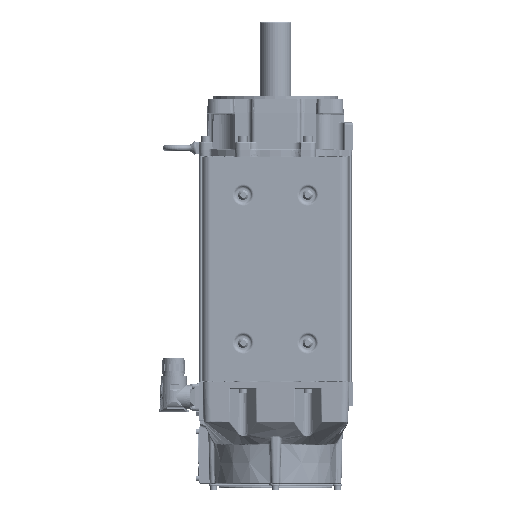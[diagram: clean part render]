
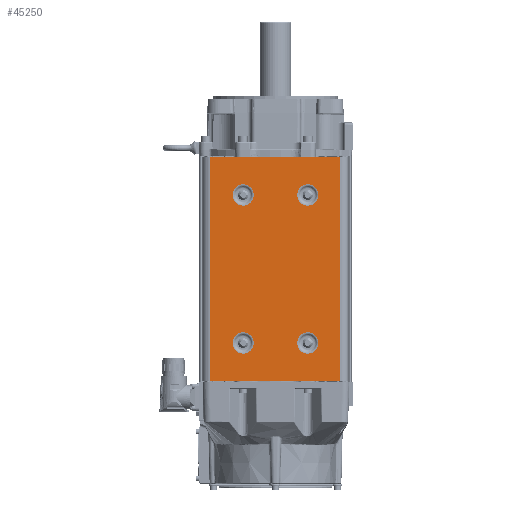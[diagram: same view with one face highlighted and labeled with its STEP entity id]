
A CAD part, left-side view. The second image highlights one B-rep face of the part: STEP entity #45250.
In plain terms, the highlighted planar face has unit normal (-1, 0, 0).
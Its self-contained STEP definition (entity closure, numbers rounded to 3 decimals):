
#44014=DIRECTION('',(0.,0.,-1.));
#44015=VECTOR('',#44014,231.8);
#44016=CARTESIAN_POINT('',(0.,-67.15,115.9));
#44017=LINE('',#44016,#44015);
#44108=DIRECTION('',(0.,1.,0.));
#44109=VECTOR('',#44108,134.3);
#44110=CARTESIAN_POINT('',(0.,-67.15,115.9));
#44111=LINE('',#44110,#44109);
#44120=DIRECTION('',(0.,0.,-1.));
#44121=VECTOR('',#44120,231.8);
#44122=CARTESIAN_POINT('',(0.,67.15,115.9));
#44123=LINE('',#44122,#44121);
#44124=CARTESIAN_POINT('',(0.,-33.41,76.4));
#44125=DIRECTION('',(-1.,0.,0.));
#44126=DIRECTION('',(0.,0.,1.));
#44127=AXIS2_PLACEMENT_3D('',#44124,#44125,#44126);
#44129=CARTESIAN_POINT('',(0.,-33.41,76.4));
#44130=DIRECTION('',(-1.,0.,0.));
#44131=DIRECTION('',(0.,0.,-1.));
#44132=AXIS2_PLACEMENT_3D('',#44129,#44130,#44131);
#44134=CARTESIAN_POINT('',(0.,-33.41,-76.4));
#44135=DIRECTION('',(-1.,0.,0.));
#44136=DIRECTION('',(0.,0.,1.));
#44137=AXIS2_PLACEMENT_3D('',#44134,#44135,#44136);
#44139=CARTESIAN_POINT('',(0.,-33.41,-76.4));
#44140=DIRECTION('',(-1.,0.,0.));
#44141=DIRECTION('',(0.,0.,-1.));
#44142=AXIS2_PLACEMENT_3D('',#44139,#44140,#44141);
#44144=CARTESIAN_POINT('',(0.,33.39,76.4));
#44145=DIRECTION('',(-1.,0.,0.));
#44146=DIRECTION('',(0.,0.,1.));
#44147=AXIS2_PLACEMENT_3D('',#44144,#44145,#44146);
#44149=CARTESIAN_POINT('',(0.,33.39,76.4));
#44150=DIRECTION('',(-1.,0.,0.));
#44151=DIRECTION('',(0.,0.,-1.));
#44152=AXIS2_PLACEMENT_3D('',#44149,#44150,#44151);
#44154=CARTESIAN_POINT('',(0.,33.39,-76.4));
#44155=DIRECTION('',(-1.,0.,0.));
#44156=DIRECTION('',(0.,0.,1.));
#44157=AXIS2_PLACEMENT_3D('',#44154,#44155,#44156);
#44159=CARTESIAN_POINT('',(0.,33.39,-76.4));
#44160=DIRECTION('',(-1.,0.,0.));
#44161=DIRECTION('',(0.,0.,-1.));
#44162=AXIS2_PLACEMENT_3D('',#44159,#44160,#44161);
#44164=DIRECTION('',(0.,1.,0.));
#44165=VECTOR('',#44164,134.3);
#44166=CARTESIAN_POINT('',(0.,-67.15,-115.9));
#44167=LINE('',#44166,#44165);
#44828=CARTESIAN_POINT('',(0.,-67.15,115.9));
#44829=CARTESIAN_POINT('',(0.,67.15,115.9));
#44830=VERTEX_POINT('',#44828);
#44831=VERTEX_POINT('',#44829);
#44840=CARTESIAN_POINT('',(0.,-67.15,-115.9));
#44841=CARTESIAN_POINT('',(0.,67.15,-115.9));
#44842=VERTEX_POINT('',#44840);
#44843=VERTEX_POINT('',#44841);
#44884=CARTESIAN_POINT('',(0.,-33.41,87.385));
#44885=CARTESIAN_POINT('',(0.,-33.41,65.415));
#44886=VERTEX_POINT('',#44884);
#44887=VERTEX_POINT('',#44885);
#44924=CARTESIAN_POINT('',(0.,-33.41,-65.415));
#44925=CARTESIAN_POINT('',(0.,-33.41,-87.385));
#44926=VERTEX_POINT('',#44924);
#44927=VERTEX_POINT('',#44925);
#44964=CARTESIAN_POINT('',(0.,33.39,87.385));
#44965=CARTESIAN_POINT('',(0.,33.39,65.415));
#44966=VERTEX_POINT('',#44964);
#44967=VERTEX_POINT('',#44965);
#45004=CARTESIAN_POINT('',(0.,33.39,-65.415));
#45005=CARTESIAN_POINT('',(0.,33.39,-87.385));
#45006=VERTEX_POINT('',#45004);
#45007=VERTEX_POINT('',#45005);
#45213=CARTESIAN_POINT('',(0.,67.15,115.9));
#45214=DIRECTION('',(-1.,0.,0.));
#45215=DIRECTION('',(0.,-1.,0.));
#45216=AXIS2_PLACEMENT_3D('',#45213,#45214,#45215);
#45217=PLANE('',#45216);
#45218=ORIENTED_EDGE('',*,*,#45204,.F.);
#45219=ORIENTED_EDGE('',*,*,#45087,.T.);
#45221=ORIENTED_EDGE('',*,*,#45220,.T.);
#45223=ORIENTED_EDGE('',*,*,#45222,.F.);
#45224=EDGE_LOOP('',(#45218,#45219,#45221,#45223));
#45225=FACE_OUTER_BOUND('',#45224,.F.);
#45227=ORIENTED_EDGE('',*,*,#45226,.T.);
#45229=ORIENTED_EDGE('',*,*,#45228,.T.);
#45230=EDGE_LOOP('',(#45227,#45229));
#45231=FACE_BOUND('',#45230,.F.);
#45233=ORIENTED_EDGE('',*,*,#45232,.T.);
#45235=ORIENTED_EDGE('',*,*,#45234,.T.);
#45236=EDGE_LOOP('',(#45233,#45235));
#45237=FACE_BOUND('',#45236,.F.);
#45239=ORIENTED_EDGE('',*,*,#45238,.T.);
#45241=ORIENTED_EDGE('',*,*,#45240,.T.);
#45242=EDGE_LOOP('',(#45239,#45241));
#45243=FACE_BOUND('',#45242,.F.);
#45245=ORIENTED_EDGE('',*,*,#45244,.T.);
#45247=ORIENTED_EDGE('',*,*,#45246,.T.);
#45248=EDGE_LOOP('',(#45245,#45247));
#45249=FACE_BOUND('',#45248,.F.);
#45250=ADVANCED_FACE('',(#45225,#45231,#45237,#45243,#45249),#45217,.T.);
#44128=CIRCLE('',#44127,10.985);
#44133=CIRCLE('',#44132,10.985);
#44138=CIRCLE('',#44137,10.985);
#44143=CIRCLE('',#44142,10.985);
#44148=CIRCLE('',#44147,10.985);
#44153=CIRCLE('',#44152,10.985);
#44158=CIRCLE('',#44157,10.985);
#44163=CIRCLE('',#44162,10.985);
#45087=EDGE_CURVE('',#44830,#44842,#44017,.T.);
#45204=EDGE_CURVE('',#44830,#44831,#44111,.T.);
#45220=EDGE_CURVE('',#44842,#44843,#44167,.T.);
#45222=EDGE_CURVE('',#44831,#44843,#44123,.T.);
#45226=EDGE_CURVE('',#44886,#44887,#44128,.T.);
#45228=EDGE_CURVE('',#44887,#44886,#44133,.T.);
#45232=EDGE_CURVE('',#44926,#44927,#44138,.T.);
#45234=EDGE_CURVE('',#44927,#44926,#44143,.T.);
#45238=EDGE_CURVE('',#44966,#44967,#44148,.T.);
#45240=EDGE_CURVE('',#44967,#44966,#44153,.T.);
#45244=EDGE_CURVE('',#45006,#45007,#44158,.T.);
#45246=EDGE_CURVE('',#45007,#45006,#44163,.T.);
